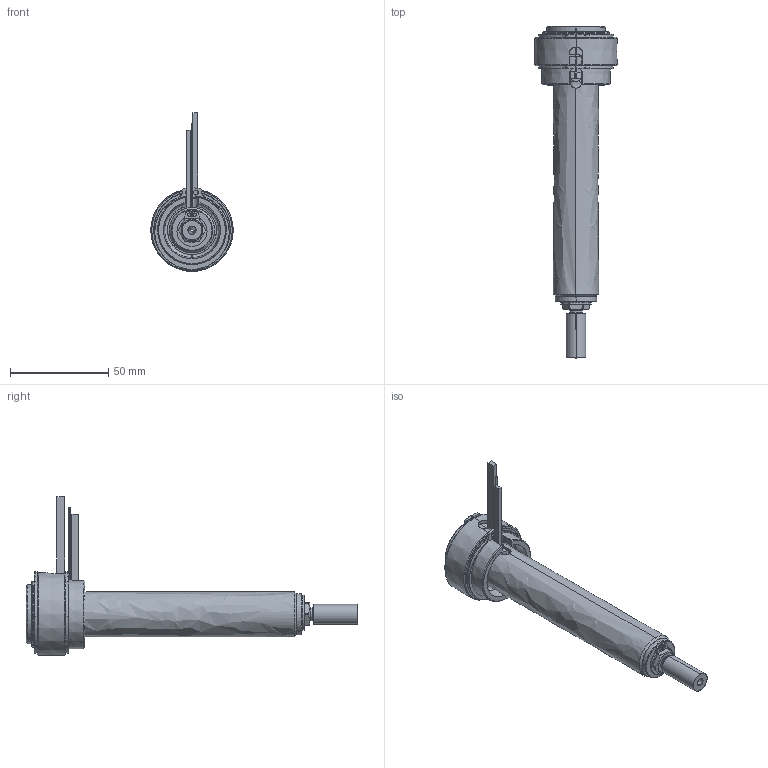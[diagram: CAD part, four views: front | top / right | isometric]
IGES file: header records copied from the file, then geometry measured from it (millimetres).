
Start section: SolidWorks IGES file using analytic representation for surfaces
Global section: file name: C:\Users\luca.EMPAD\Desktop\TEM\UGBE3503-M-A-P-3 [Ød-1.5 P-20 ØC-7.0].IGS; native system: SolidWorks 2012; preprocessor: SolidWorks 2012; author: luca; date: 120330.140508; units: millimetre
Bounding box: 42 x 169 x 80.9 mm (x, y, z)
Surface area: 37835 mm2 (no closed solid volume)
Topology: 0 solids, 0 shells, 187 faces, 3330 edges, 3330 vertices
Faces by surface type: revolution 119, bspline 68
